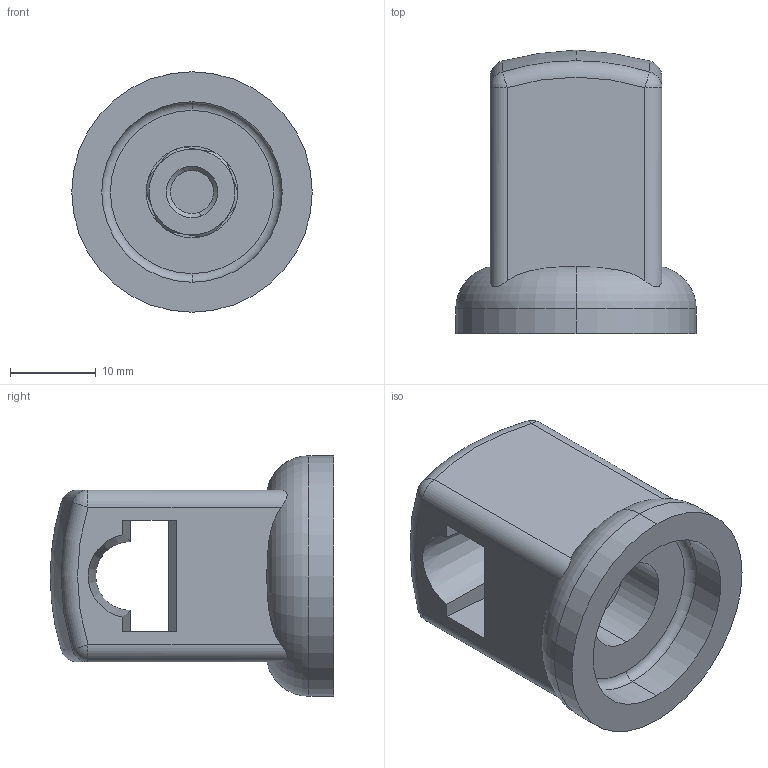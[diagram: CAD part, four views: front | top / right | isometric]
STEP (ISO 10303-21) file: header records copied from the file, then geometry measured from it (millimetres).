
FILE_DESCRIPTION (( 'STEP AP214' ), '1' );
FILE_NAME ('1C.906.008.STEP', '2012-06-18T10:39:58', ( 'lukasz' ), ( 'ATC' ), 'SwSTEP 2.0', 'SolidWorks 2010', '' );
FILE_SCHEMA (( 'AUTOMOTIVE_DESIGN' ));
Length unit declared in the file: millimetre
Products named in the file (3): 1C.906.008; 1C.906.008 rzeczywisty; Nakrêtka M6
Assembly tree (2 placements, depth 2):
  1C.906.008
    Nakrêtka M6
    1C.906.008 rzeczywisty
Bounding box: 28 x 33 x 28 mm (x, y, z)
Volume: 9557.7 mm3; surface area: 5178.2 mm2
Topology: 2 solids, 2 shells, 69 faces, 154 edges, 91 vertices
Faces by surface type: plane 23, cone 20, cylinder 12, torus 8, sphere 6
Entity records: 2285 total; most frequent: CARTESIAN_POINT 645, DIRECTION 331, ORIENTED_EDGE 308, EDGE_CURVE 154, AXIS2_PLACEMENT_3D 141, VERTEX_POINT 91, EDGE_LOOP 75, FACE_OUTER_BOUND 69
